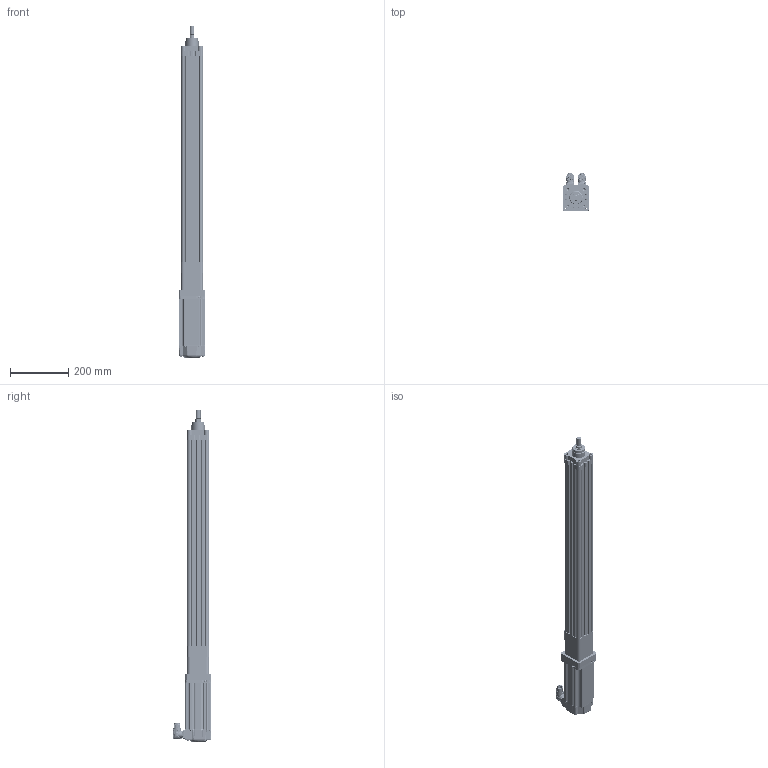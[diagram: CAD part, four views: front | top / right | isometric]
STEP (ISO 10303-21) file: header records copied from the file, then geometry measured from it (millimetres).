
FILE_DESCRIPTION((''),'2;1');
FILE_NAME('MPAR-X3600E-M4A_ASM','2009-04-15T',('dperuma'),('Rockwell Automation'),'PRO/ENGINEER BY PARAMETRIC TECHNOLOGY CORPORATION, 2004490','PRO/ENGINEER BY PARAMETRIC TECHNOLOGY CORPORATION, 2004490','');
FILE_SCHEMA(('CONFIG_CONTROL_DESIGN'));
Products named in the file (37): PRT0011-543145; PRT0012-543145; 627379_627385_ASM; 627467; 627458; B627390; 10000005244A_AF5_1; 10000006342_AF5_1; 10000005247_ASM_1_ASM; 10000014325-2_1; 10000014331_1; 10000014332-230_1; 10000014330-230_ASM_1_ASM; 10000014325-1_1; 10000014326-1_1; 10000014326_ASM_1_ASM; 10000014328_1; 0003-5681_1; 10000014325-BRK_ASM_1_ASM; PHMP4X044_1; 0003-6889_AF1_1; ABLOGOF100L_1; PN-11371-REP_ASM_1_ASM; PHMP6X031_1; 0008-6504_1; 10000011583A_AF1_1; 10000009258_AF1_1; 10000011589_ASM_1_ASM; 19-10131-007_1; F100SHAFT-REP_1; 0002-1750_1; 0023-0315_1; 0018-3366_1; 0011-2081_1; MPL-A330-J74AA-ESM_ASM_1_ASM; MPL-330-J74AA_ASM; MPAR-X3600E-M4A_ASM
Assembly tree (58 placements, depth 6):
  MPAR-X3600E-M4A_ASM
    627379_627385_ASM
      PRT0011-543145
      PRT0012-543145
    627467
    627458
    B627390
    MPL-330-J74AA_ASM
      MPL-A330-J74AA-ESM_ASM_1_ASM
        10000005247_ASM_1_ASM
          10000005244A_AF5_1
          10000006342_AF5_1
        10000014330-230_ASM_1_ASM
          10000014325-2_1
          10000014331_1
          10000014332-230_1
        10000014325-BRK_ASM_1_ASM
          10000014325-2_1
          10000014325-1_1
          10000014326_ASM_1_ASM
            10000014326-1_1
          10000014328_1  x4
          0003-5681_1  x2
        PHMP4X044_1  x8
        PN-11371-REP_ASM_1_ASM
          0003-6889_AF1_1
          ABLOGOF100L_1
        PHMP6X031_1  x4
        0008-6504_1
        10000011589_ASM_1_ASM
          10000011583A_AF1_1
          10000009258_AF1_1
        19-10131-007_1  x8
        F100SHAFT-REP_1
        0002-1750_1
        0023-0315_1
        0018-3366_1
        0011-2081_1
Bounding box: 89.43 x 131.98 x 1138.31 mm (x, y, z)
Volume: 3471466.2 mm3; surface area: 843684.5 mm2
Topology: 49 solids, 68 shells, 6558 faces, 18256 edges, 11789 vertices
Faces by surface type: cylinder 2145, plane 1835, bspline 1016, cone 747, torus 651, sphere 159, extrusion 3, revolution 2
Entity records: 256193 total; most frequent: CARTESIAN_POINT 116996, ORIENTED_EDGE 30958, DIRECTION 26968, EDGE_CURVE 15512, AXIS2_PLACEMENT_3D 10891, VERTEX_POINT 10141, EDGE_LOOP 6021, CIRCLE 5989
